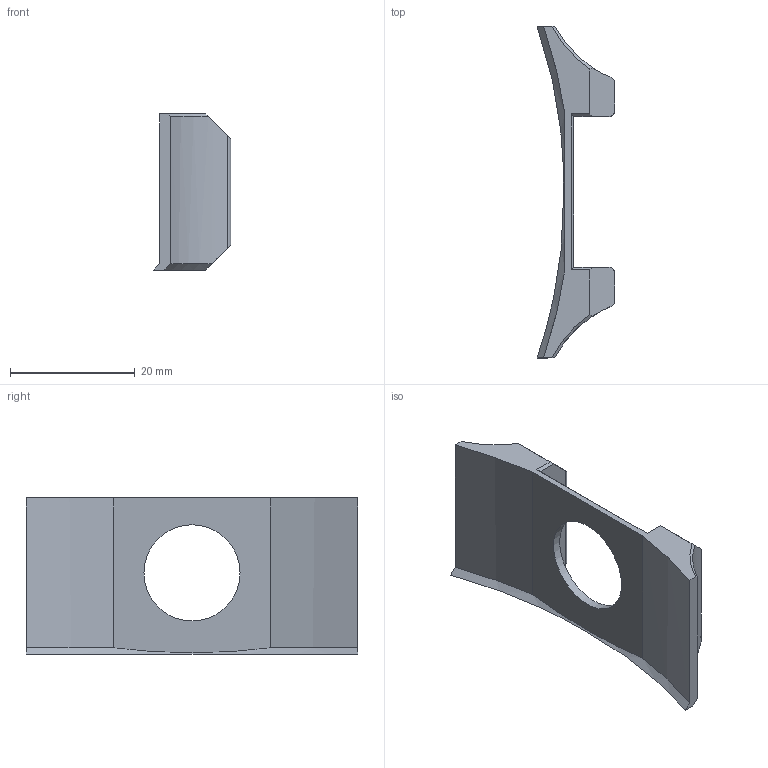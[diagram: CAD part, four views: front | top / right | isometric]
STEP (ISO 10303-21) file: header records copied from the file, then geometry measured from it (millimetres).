
FILE_DESCRIPTION(/* description */ ('STEP AP242','CAx-IF Rec.Pracs.---Representation and Presentation of Product Manufacturing Information (PMI)---4.0---2014-10-13','CAx-IF Rec.Pracs.---3D Tessellated Geometry---0.4---2014-09-14','2;1'),/* implementation_level */ '2;1');
FILE_NAME(/* name */ '66d3700c95d81402515f4d0f',/* time_stamp */ '2024-08-31T19:33:33Z',/* author */ (''),/* organization */ (''),/* preprocessor_version */ 'ST-DEVELOPER v20',/* originating_system */ ' ',/* authorisation */ ' ');
FILE_SCHEMA (('AP242_MANAGED_MODEL_BASED_3D_ENGINEERING_MIM_LF { 1 0 10303 442 1 1 4 }'));
Length unit declared in the file: metre
Products named in the file (1): crownguard
Bounding box: 12.45 x 53.13 x 25 mm (x, y, z)
Volume: 4642 mm3; surface area: 3329.5 mm2
Topology: 1 solids, 1 shells, 32 faces, 88 edges, 58 vertices
Faces by surface type: plane 17, cylinder 7, cone 4, bspline 4
Full cylindrical faces by diameter (mm): 15.4 x1
Entity records: 1120 total; most frequent: CARTESIAN_POINT 309, ORIENTED_EDGE 174, DIRECTION 148, EDGE_CURVE 87, VERTEX_POINT 58, AXIS2_PLACEMENT_3D 51, LINE 46, VECTOR 46
